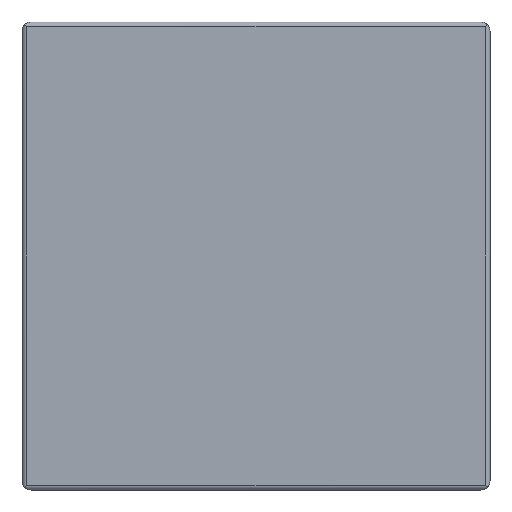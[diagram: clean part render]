
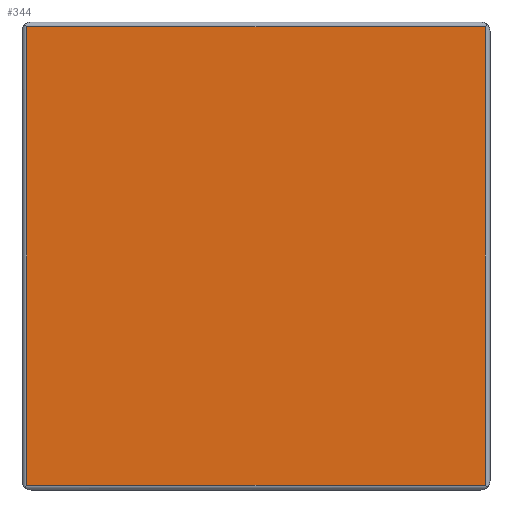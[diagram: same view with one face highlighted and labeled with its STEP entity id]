
A CAD part, front view. The second image highlights one B-rep face of the part: STEP entity #344.
In plain terms, the highlighted planar face has unit normal (0, -1, 0).
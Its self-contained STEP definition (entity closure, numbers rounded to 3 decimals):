
#218 = VERTEX_POINT( '', #538 );
#290 = VERTEX_POINT( '', #618 );
#338 = EDGE_CURVE( '', #348, #446, #669, .T. );
#344 = ADVANCED_FACE( '', ( #676 ), #677, .F. );
#348 = VERTEX_POINT( '', #681 );
#354 = EDGE_CURVE( '', #446, #218, #687, .T. );
#356 = EDGE_CURVE( '', #348, #290, #689, .T. );
#430 = EDGE_CURVE( '', #290, #218, #773, .T. );
#446 = VERTEX_POINT( '', #789 );
#538 = CARTESIAN_POINT( '', ( 40.5, -28., 24.5 ) );
#618 = CARTESIAN_POINT( '', ( -8.5, -28., 24.5 ) );
#669 = LINE( '', #1143, #1144 );
#676 = FACE_OUTER_BOUND( '', #1153, .T. );
#677 = PLANE( '', #1154 );
#681 = CARTESIAN_POINT( '', ( -8.5, -28., -24.5 ) );
#687 = LINE( '', #1177, #1178 );
#689 = LINE( '', #1181, #1182 );
#773 = LINE( '', #1306, #1307 );
#789 = CARTESIAN_POINT( '', ( 40.5, -28., -24.5 ) );
#1143 = CARTESIAN_POINT( '', ( 16., -28., -24.5 ) );
#1144 = VECTOR( '', #1567, 1. );
#1153 = EDGE_LOOP( '', ( #1578, #1579, #1580, #1581 ) );
#1154 = AXIS2_PLACEMENT_3D( '', #1582, #1583, #1584 );
#1177 = CARTESIAN_POINT( '', ( 40.5, -28., 0. ) );
#1178 = VECTOR( '', #1586, 1. );
#1181 = CARTESIAN_POINT( '', ( -8.5, -28., 0. ) );
#1182 = VECTOR( '', #1587, 1. );
#1306 = CARTESIAN_POINT( '', ( 16., -28., 24.5 ) );
#1307 = VECTOR( '', #1700, 1. );
#1567 = DIRECTION( '', ( 1., 0., 0. ) );
#1578 = ORIENTED_EDGE( '', *, *, #430, .F. );
#1579 = ORIENTED_EDGE( '', *, *, #356, .F. );
#1580 = ORIENTED_EDGE( '', *, *, #338, .T. );
#1581 = ORIENTED_EDGE( '', *, *, #354, .T. );
#1582 = CARTESIAN_POINT( '', ( 0., -28., 0. ) );
#1583 = DIRECTION( '', ( 0., 1., 0. ) );
#1584 = DIRECTION( '', ( 0., 0., 1. ) );
#1586 = DIRECTION( '', ( 0., 0., 1. ) );
#1587 = DIRECTION( '', ( 0., 0., 1. ) );
#1700 = DIRECTION( '', ( 1., 0., 0. ) );
